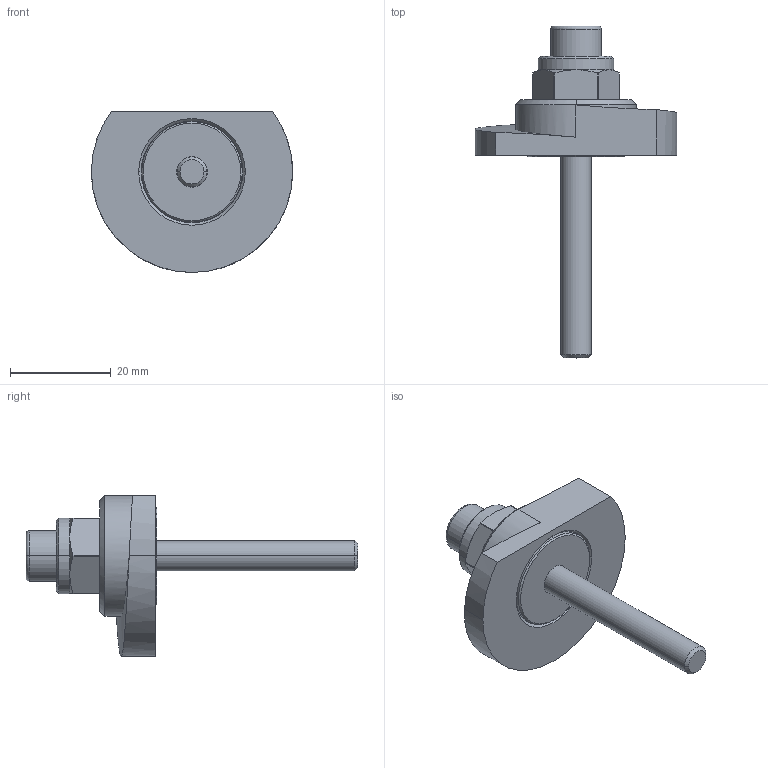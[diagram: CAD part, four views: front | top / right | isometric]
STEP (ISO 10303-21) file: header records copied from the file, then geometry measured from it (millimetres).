
FILE_DESCRIPTION (( 'STEP AP214' ), '1' );
FILE_NAME ('918.1-40-SKS-L-40.step', '2024-05-15T13:00:52', ( '' ), ( '' ), 'SwSTEP 2.0', 'SolidWorks 2022', '' );
FILE_SCHEMA (( 'AUTOMOTIVE_DESIGN' ));
Length unit declared in the file: millimetre
Products named in the file (1): 918.1-40-SKS-L-40
Bounding box: 40 x 66 x 32 mm (x, y, z)
Volume: 12081 mm3; surface area: 6962.4 mm2
Topology: 1 solids, 2 shells, 80 faces, 179 edges, 112 vertices
Faces by surface type: cylinder 27, plane 26, cone 22, bspline 3, torus 2
Entity records: 2599 total; most frequent: CARTESIAN_POINT 777, DIRECTION 390, ORIENTED_EDGE 358, EDGE_CURVE 179, AXIS2_PLACEMENT_3D 157, VERTEX_POINT 112, EDGE_LOOP 91, FACE_OUTER_BOUND 80
